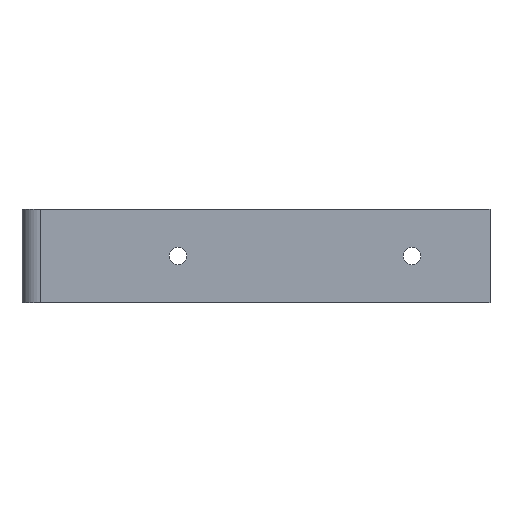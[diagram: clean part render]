
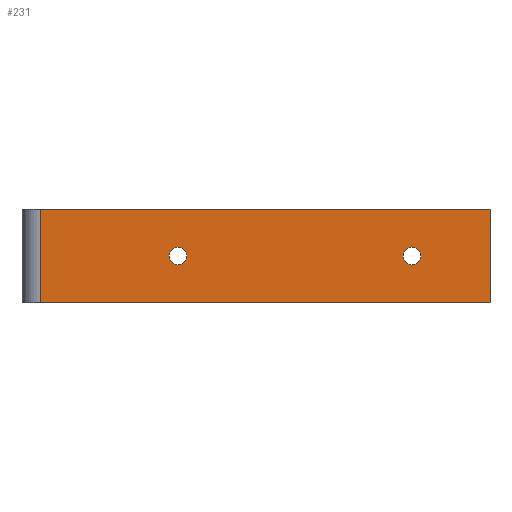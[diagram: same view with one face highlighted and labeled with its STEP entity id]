
A CAD part, left-side view. The second image highlights one B-rep face of the part: STEP entity #231.
In plain terms, the highlighted planar face has unit normal (-1, 0, 0).
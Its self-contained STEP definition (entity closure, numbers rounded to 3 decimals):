
#48 = VERTEX_POINT ( 'NONE', #496 ) ;
#62 = VERTEX_POINT ( 'NONE', #949 ) ;
#83 = AXIS2_PLACEMENT_3D ( 'NONE', #141, #740, #311 ) ;
#84 = EDGE_LOOP ( 'NONE', ( #338, #469 ) ) ;
#90 = VERTEX_POINT ( 'NONE', #724 ) ;
#93 = EDGE_CURVE ( 'NONE', #62, #968, #433, .T. ) ;
#110 = CARTESIAN_POINT ( 'NONE',  ( -5., -45., 0. ) ) ;
#113 = ORIENTED_EDGE ( 'NONE', *, *, #791, .F. ) ;
#115 = VECTOR ( 'NONE', #644, 1000. ) ;
#133 = AXIS2_PLACEMENT_3D ( 'NONE', #110, #421, #432 ) ;
#141 = CARTESIAN_POINT ( 'NONE',  ( -5., -120., 0. ) ) ;
#165 = EDGE_CURVE ( 'NONE', #62, #48, #558, .T. ) ;
#184 = CIRCLE ( 'NONE', #133, 2.75 ) ;
#208 = EDGE_CURVE ( 'NONE', #90, #876, #913, .T. ) ;
#225 = DIRECTION ( 'NONE',  ( 0., 1., 0. ) ) ;
#231 = ADVANCED_FACE ( 'NONE', ( #956, #234, #589 ), #289, .F. ) ;
#234 = FACE_BOUND ( 'NONE', #603, .T. ) ;
#275 = EDGE_CURVE ( 'NONE', #594, #909, #372, .T. ) ;
#289 = PLANE ( 'NONE',  #465 ) ;
#292 = AXIS2_PLACEMENT_3D ( 'NONE', #461, #808, #727 ) ;
#293 = CARTESIAN_POINT ( 'NONE',  ( -5., -145., -15. ) ) ;
#308 = LINE ( 'NONE', #293, #764 ) ;
#311 = DIRECTION ( 'NONE',  ( 0., -1., 0. ) ) ;
#336 = ORIENTED_EDGE ( 'NONE', *, *, #716, .F. ) ;
#338 = ORIENTED_EDGE ( 'NONE', *, *, #422, .F. ) ;
#361 = DIRECTION ( 'NONE',  ( 0., -1., 0. ) ) ;
#368 = DIRECTION ( 'NONE',  ( 0., 0., -1. ) ) ;
#372 = CIRCLE ( 'NONE', #292, 2.75 ) ;
#374 = VECTOR ( 'NONE', #772, 1000. ) ;
#383 = EDGE_LOOP ( 'NONE', ( #522, #336, #654, #953 ) ) ;
#421 = DIRECTION ( 'NONE',  ( -1., 0., 0. ) ) ;
#422 = EDGE_CURVE ( 'NONE', #909, #594, #184, .T. ) ;
#426 = CARTESIAN_POINT ( 'NONE',  ( -5., -117.25, 0. ) ) ;
#432 = DIRECTION ( 'NONE',  ( 0., -1., 0. ) ) ;
#433 = LINE ( 'NONE', #932, #115 ) ;
#461 = CARTESIAN_POINT ( 'NONE',  ( -5., -45., 0. ) ) ;
#465 = AXIS2_PLACEMENT_3D ( 'NONE', #666, #656, #225 ) ;
#467 = CIRCLE ( 'NONE', #614, 2.75 ) ;
#469 = ORIENTED_EDGE ( 'NONE', *, *, #275, .F. ) ;
#496 = CARTESIAN_POINT ( 'NONE',  ( -5., -145., 15. ) ) ;
#522 = ORIENTED_EDGE ( 'NONE', *, *, #939, .T. ) ;
#532 = CARTESIAN_POINT ( 'NONE',  ( -5., -120., 0. ) ) ;
#558 = LINE ( 'NONE', #858, #626 ) ;
#562 = VERTEX_POINT ( 'NONE', #779 ) ;
#564 = CARTESIAN_POINT ( 'NONE',  ( -5., -47.75, 0. ) ) ;
#589 = FACE_OUTER_BOUND ( 'NONE', #383, .T. ) ;
#592 = CARTESIAN_POINT ( 'NONE',  ( -5., -42.25, 0. ) ) ;
#594 = VERTEX_POINT ( 'NONE', #592 ) ;
#603 = EDGE_LOOP ( 'NONE', ( #695, #113 ) ) ;
#614 = AXIS2_PLACEMENT_3D ( 'NONE', #532, #843, #676 ) ;
#623 = CARTESIAN_POINT ( 'NONE',  ( -5., -1., -15. ) ) ;
#626 = VECTOR ( 'NONE', #361, 1000. ) ;
#644 = DIRECTION ( 'NONE',  ( 0., 0., -1. ) ) ;
#654 = ORIENTED_EDGE ( 'NONE', *, *, #165, .F. ) ;
#656 = DIRECTION ( 'NONE',  ( 1., 0., 0. ) ) ;
#666 = CARTESIAN_POINT ( 'NONE',  ( -5., -1., 15. ) ) ;
#676 = DIRECTION ( 'NONE',  ( 0., -1., 0. ) ) ;
#695 = ORIENTED_EDGE ( 'NONE', *, *, #208, .F. ) ;
#706 = LINE ( 'NONE', #940, #374 ) ;
#716 = EDGE_CURVE ( 'NONE', #48, #562, #308, .T. ) ;
#724 = CARTESIAN_POINT ( 'NONE',  ( -5., -122.75, 0. ) ) ;
#727 = DIRECTION ( 'NONE',  ( 0., -1., 0. ) ) ;
#740 = DIRECTION ( 'NONE',  ( -1., 0., 0. ) ) ;
#764 = VECTOR ( 'NONE', #368, 1000. ) ;
#772 = DIRECTION ( 'NONE',  ( 0., -1., 0. ) ) ;
#779 = CARTESIAN_POINT ( 'NONE',  ( -5., -145., -15. ) ) ;
#791 = EDGE_CURVE ( 'NONE', #876, #90, #467, .T. ) ;
#808 = DIRECTION ( 'NONE',  ( -1., 0., 0. ) ) ;
#843 = DIRECTION ( 'NONE',  ( -1., 0., 0. ) ) ;
#858 = CARTESIAN_POINT ( 'NONE',  ( -5., -1., 15. ) ) ;
#876 = VERTEX_POINT ( 'NONE', #426 ) ;
#909 = VERTEX_POINT ( 'NONE', #564 ) ;
#913 = CIRCLE ( 'NONE', #83, 2.75 ) ;
#932 = CARTESIAN_POINT ( 'NONE',  ( -5., -1., 15. ) ) ;
#939 = EDGE_CURVE ( 'NONE', #968, #562, #706, .T. ) ;
#940 = CARTESIAN_POINT ( 'NONE',  ( -5., -1., -15. ) ) ;
#949 = CARTESIAN_POINT ( 'NONE',  ( -5., -1., 15. ) ) ;
#953 = ORIENTED_EDGE ( 'NONE', *, *, #93, .T. ) ;
#956 = FACE_BOUND ( 'NONE', #84, .T. ) ;
#968 = VERTEX_POINT ( 'NONE', #623 ) ;
